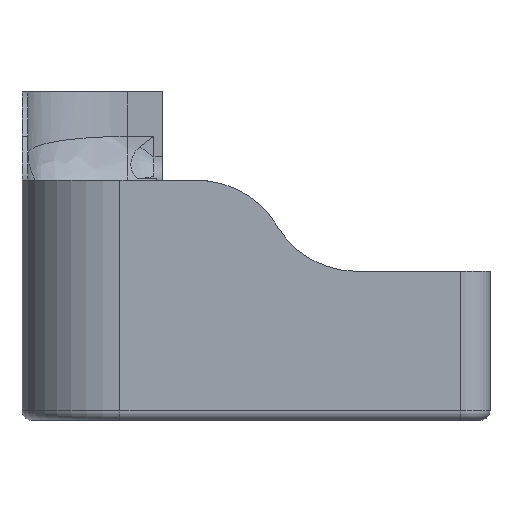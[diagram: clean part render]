
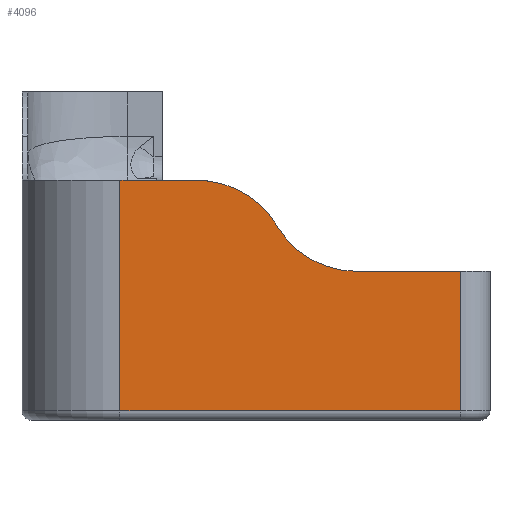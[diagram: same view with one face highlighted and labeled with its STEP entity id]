
A CAD part, left-side view. The second image highlights one B-rep face of the part: STEP entity #4096.
In plain terms, the highlighted planar face has unit normal (-1, 0, 0).
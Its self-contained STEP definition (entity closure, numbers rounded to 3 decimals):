
#62=PLANE('',#4393);
#158=LINE('',#6018,#462);
#169=LINE('',#6266,#473);
#171=LINE('',#6275,#475);
#172=LINE('',#6277,#476);
#173=LINE('',#6290,#477);
#462=VECTOR('',#4644,1000.);
#473=VECTOR('',#4701,10.);
#475=VECTOR('',#4713,1000.);
#476=VECTOR('',#4714,1000.);
#477=VECTOR('',#4719,10.);
#786=B_SPLINE_CURVE_WITH_KNOTS('',3,(#6283,#6284,#6285,#6286,#6287,#6288,
#6289),.UNSPECIFIED.,.F.,.F.,(4,3,4),(0.,0.488,0.68),
 .UNSPECIFIED.);
#1061=FACE_OUTER_BOUND('',#1300,.T.);
#1300=EDGE_LOOP('',(#2840,#2841,#2842,#2843,#2844,#2845,#2846,#2847));
#1576=CIRCLE('',#4394,50.);
#1577=CIRCLE('',#4395,50.8);
#1651=VERTEX_POINT('',#6015);
#1652=VERTEX_POINT('',#6017);
#1676=VERTEX_POINT('',#6264);
#1678=VERTEX_POINT('',#6274);
#1679=VERTEX_POINT('',#6276);
#1680=VERTEX_POINT('',#6278);
#1681=VERTEX_POINT('',#6280);
#1682=VERTEX_POINT('',#6282);
#2094=EDGE_CURVE('',#1652,#1651,#158,.T.);
#2128=EDGE_CURVE('',#1676,#1651,#169,.T.);
#2132=EDGE_CURVE('',#1676,#1678,#171,.T.);
#2133=EDGE_CURVE('',#1678,#1679,#172,.T.);
#2134=EDGE_CURVE('',#1679,#1680,#1576,.T.);
#2135=EDGE_CURVE('',#1680,#1681,#1577,.T.);
#2136=EDGE_CURVE('',#1681,#1682,#786,.T.);
#2137=EDGE_CURVE('',#1652,#1682,#173,.T.);
#2840=ORIENTED_EDGE('',*,*,#2128,.F.);
#2841=ORIENTED_EDGE('',*,*,#2132,.T.);
#2842=ORIENTED_EDGE('',*,*,#2133,.T.);
#2843=ORIENTED_EDGE('',*,*,#2134,.T.);
#2844=ORIENTED_EDGE('',*,*,#2135,.T.);
#2845=ORIENTED_EDGE('',*,*,#2136,.T.);
#2846=ORIENTED_EDGE('',*,*,#2137,.F.);
#2847=ORIENTED_EDGE('',*,*,#2094,.T.);
#4096=ADVANCED_FACE('',(#1061),#62,.T.);
#4393=AXIS2_PLACEMENT_3D('',#6273,#4711,#4712);
#4394=AXIS2_PLACEMENT_3D('',#6279,#4715,#4716);
#4395=AXIS2_PLACEMENT_3D('',#6281,#4717,#4718);
#4644=DIRECTION('',(0.,0.,-1.));
#4701=DIRECTION('',(0.,1.,0.));
#4711=DIRECTION('center_axis',(-1.,0.,0.));
#4712=DIRECTION('ref_axis',(0.,0.,1.));
#4713=DIRECTION('',(0.,0.,1.));
#4714=DIRECTION('',(0.,1.,0.));
#4715=DIRECTION('center_axis',(1.,0.,0.));
#4716=DIRECTION('ref_axis',(0.,-1.,0.));
#4717=DIRECTION('center_axis',(-1.,0.,0.));
#4718=DIRECTION('ref_axis',(0.,-0.133,0.991));
#4719=DIRECTION('',(0.,-1.,0.));
#6015=CARTESIAN_POINT('',(-75.,-53.183,-71.208));
#6017=CARTESIAN_POINT('',(-75.,-53.183,53.967));
#6018=CARTESIAN_POINT('',(-75.,-53.183,-76.208));
#6264=CARTESIAN_POINT('',(-75.,-238.183,-71.208));
#6266=CARTESIAN_POINT('',(-75.,-95.258,-71.208));
#6273=CARTESIAN_POINT('Origin',(-75.,-63.508,-76.208));
#6274=CARTESIAN_POINT('',(-75.,-238.183,4.592));
#6275=CARTESIAN_POINT('',(-75.,-238.183,-76.208));
#6276=CARTESIAN_POINT('',(-75.,-181.538,4.592));
#6277=CARTESIAN_POINT('',(-75.,-254.008,4.592));
#6278=CARTESIAN_POINT('',(-75.,-138.53,29.085));
#6279=CARTESIAN_POINT('Origin',(-75.,-181.538,54.592));
#6280=CARTESIAN_POINT('',(-75.,-101.608,53.513));
#6281=CARTESIAN_POINT('Origin',(-75.,-94.835,3.167));
#6282=CARTESIAN_POINT('',(-75.,-94.835,53.967));
#6283=CARTESIAN_POINT('Ctrl Pts',(-75.,-101.608,53.513));
#6284=CARTESIAN_POINT('Ctrl Pts',(-75.,-100.026,53.726));
#6285=CARTESIAN_POINT('Ctrl Pts',(-75.,-98.386,53.869));
#6286=CARTESIAN_POINT('Ctrl Pts',(-75.,-96.753,53.931));
#6287=CARTESIAN_POINT('Ctrl Pts',(-75.,-96.111,53.955));
#6288=CARTESIAN_POINT('Ctrl Pts',(-75.,-95.471,53.967));
#6289=CARTESIAN_POINT('Ctrl Pts',(-75.,-94.835,53.967));
#6290=CARTESIAN_POINT('',(-75.,-95.258,53.967));
